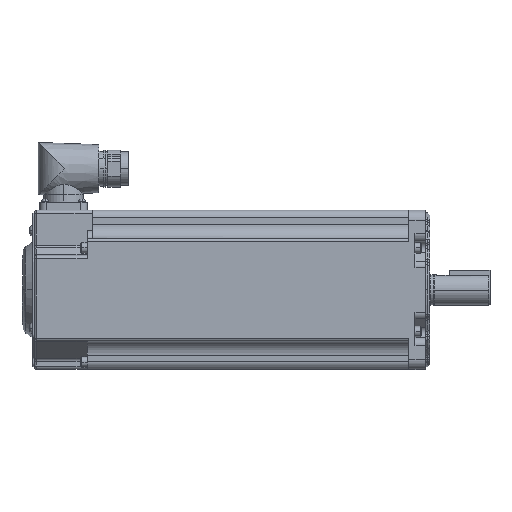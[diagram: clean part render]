
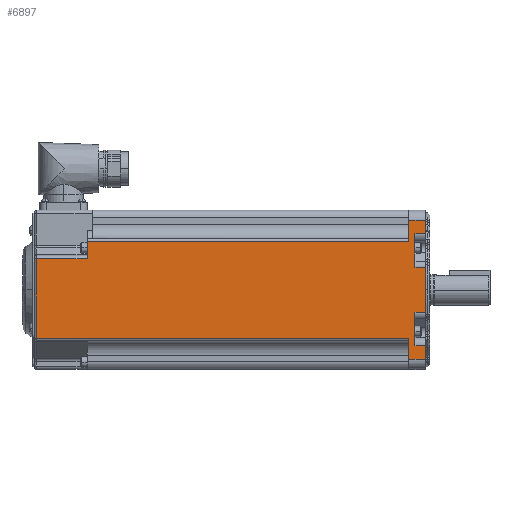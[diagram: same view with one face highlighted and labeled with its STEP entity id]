
A CAD part, top view. The second image highlights one B-rep face of the part: STEP entity #6897.
In plain terms, the highlighted planar face has unit normal (0, 0, 1) as drawn and (0, 0, -1) by its records, which use the part's own axes.
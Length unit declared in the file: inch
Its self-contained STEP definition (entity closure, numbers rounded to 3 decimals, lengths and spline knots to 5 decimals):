
#6897 = ADVANCED_FACE ( 'NONE', ( #29385 ), #29196, .F. ) ;
#7129 = EDGE_LOOP ( 'NONE', ( #10305, #10308, #10307, #10309, #10310, #17941, #17943, #17942, #17944, #17945, #17946, #17947, #17948, #17949, #17951, #17950, #17952, #17953 ) ) ;
#8104 = VERTEX_POINT ( 'NONE', #29499 ) ;
#8117 = VERTEX_POINT ( 'NONE', #29512 ) ;
#8153 = VERTEX_POINT ( 'NONE', #29548 ) ;
#8154 = VERTEX_POINT ( 'NONE', #29549 ) ;
#8166 = VERTEX_POINT ( 'NONE', #29561 ) ;
#8181 = VERTEX_POINT ( 'NONE', #29576 ) ;
#9345 = EDGE_CURVE ( 'NONE', #8154, #8153, #30149, .T. ) ;
#9444 = EDGE_CURVE ( 'NONE', #8117, #8104, #30278, .T. ) ;
#9479 = EDGE_CURVE ( 'NONE', #8166, #8181, #30341, .T. ) ;
#9527 = EDGE_CURVE ( 'NONE', #17619, #17621, #30416, .T. ) ;
#9529 = EDGE_CURVE ( 'NONE', #17619, #17620, #30419, .T. ) ;
#9531 = EDGE_CURVE ( 'NONE', #17621, #17622, #30518, .T. ) ;
#10305 = ORIENTED_EDGE ( 'NONE', *, *, #9529, .F. ) ;
#10307 = ORIENTED_EDGE ( 'NONE', *, *, #9531, .T. ) ;
#10308 = ORIENTED_EDGE ( 'NONE', *, *, #9527, .T. ) ;
#10309 = ORIENTED_EDGE ( 'NONE', *, *, #17439, .T. ) ;
#10310 = ORIENTED_EDGE ( 'NONE', *, *, #9345, .F. ) ;
#13731 = LINE ( 'NONE', #13733, #35204 ) ;
#13733 = CARTESIAN_POINT ( 'NONE',  ( -8.1, -1.1825, -1.935 ) ) ;
#13735 = DIRECTION ( 'NONE',  ( -1., 0., 0. ) ) ;
#13737 = LINE ( 'NONE', #13739, #35205 ) ;
#13739 = CARTESIAN_POINT ( 'NONE',  ( -8.1, -0.755, -1.935 ) ) ;
#13741 = DIRECTION ( 'NONE',  ( -1., 0., 0. ) ) ;
#13743 = LINE ( 'NONE', #13745, #35206 ) ;
#13745 = CARTESIAN_POINT ( 'NONE',  ( -9.46, 1.1825, -1.935 ) ) ;
#13747 = DIRECTION ( 'NONE',  ( 0., 1., 0. ) ) ;
#13749 = LINE ( 'NONE', #13751, #35207 ) ;
#13751 = CARTESIAN_POINT ( 'NONE',  ( -8.1, 1.1825, -1.935 ) ) ;
#13753 = DIRECTION ( 'NONE',  ( 1., 0., 0. ) ) ;
#13755 = LINE ( 'NONE', #13757, #35208 ) ;
#13757 = CARTESIAN_POINT ( 'NONE',  ( -0.4, -1.935, -1.935 ) ) ;
#13759 = DIRECTION ( 'NONE',  ( 0., 1., 0. ) ) ;
#13761 = LINE ( 'NONE', #13763, #35209 ) ;
#13763 = CARTESIAN_POINT ( 'NONE',  ( -8.1, 1.685, -1.935 ) ) ;
#13765 = DIRECTION ( 'NONE',  ( 1., 0., 0. ) ) ;
#13767 = LINE ( 'NONE', #13769, #35210 ) ;
#13769 = CARTESIAN_POINT ( 'NONE',  ( 0., -1.935, -1.935 ) ) ;
#13771 = DIRECTION ( 'NONE',  ( 0., 1., 0. ) ) ;
#13773 = LINE ( 'NONE', #13775, #35211 ) ;
#13775 = CARTESIAN_POINT ( 'NONE',  ( -8.1, 1.36314, -1.935 ) ) ;
#13777 = DIRECTION ( 'NONE',  ( -1., 0., 0. ) ) ;
#13779 = LINE ( 'NONE', #13781, #35212 ) ;
#13781 = CARTESIAN_POINT ( 'NONE',  ( -8.1, 0.54835, -1.935 ) ) ;
#13783 = DIRECTION ( 'NONE',  ( 1., 0., 0. ) ) ;
#13785 = LINE ( 'NONE', #13787, #35213 ) ;
#13787 = CARTESIAN_POINT ( 'NONE',  ( 0., -1.935, -1.935 ) ) ;
#13789 = DIRECTION ( 'NONE',  ( 0., 1., 0. ) ) ;
#13791 = LINE ( 'NONE', #13793, #35214 ) ;
#13793 = CARTESIAN_POINT ( 'NONE',  ( -8.1, -0.54835, -1.935 ) ) ;
#13795 = DIRECTION ( 'NONE',  ( -1., 0., 0. ) ) ;
#13797 = LINE ( 'NONE', #13799, #35215 ) ;
#13799 = CARTESIAN_POINT ( 'NONE',  ( -8.1, -1.36314, -1.935 ) ) ;
#13801 = DIRECTION ( 'NONE',  ( 1., 0., 0. ) ) ;
#14393 = CARTESIAN_POINT ( 'NONE',  ( 0., -1.685, -1.935 ) ) ;
#14394 = CARTESIAN_POINT ( 'NONE',  ( 0., -1.36314, -1.935 ) ) ;
#14395 = CARTESIAN_POINT ( 'NONE',  ( -0.4, -1.685, -1.935 ) ) ;
#14396 = CARTESIAN_POINT ( 'NONE',  ( -0.4, -1.1825, -1.935 ) ) ;
#14397 = CARTESIAN_POINT ( 'NONE',  ( -9.46, -0.755, -1.935 ) ) ;
#14398 = CARTESIAN_POINT ( 'NONE',  ( -9.46, 1.1825, -1.935 ) ) ;
#14399 = CARTESIAN_POINT ( 'NONE',  ( -0.4, 1.1825, -1.935 ) ) ;
#14400 = CARTESIAN_POINT ( 'NONE',  ( -0.4, 1.685, -1.935 ) ) ;
#14401 = CARTESIAN_POINT ( 'NONE',  ( 0., 1.685, -1.935 ) ) ;
#14402 = CARTESIAN_POINT ( 'NONE',  ( 0., 1.36314, -1.935 ) ) ;
#14403 = CARTESIAN_POINT ( 'NONE',  ( 0., 0.54835, -1.935 ) ) ;
#14404 = CARTESIAN_POINT ( 'NONE',  ( 0., -0.54835, -1.935 ) ) ;
#17439 = EDGE_CURVE ( 'NONE', #17622, #8153, #13731, .T. ) ;
#17440 = EDGE_CURVE ( 'NONE', #8154, #17623, #13737, .T. ) ;
#17441 = EDGE_CURVE ( 'NONE', #17623, #17624, #13743, .T. ) ;
#17442 = EDGE_CURVE ( 'NONE', #17624, #17625, #13749, .T. ) ;
#17443 = EDGE_CURVE ( 'NONE', #17625, #17626, #13755, .T. ) ;
#17444 = EDGE_CURVE ( 'NONE', #17626, #17627, #13761, .T. ) ;
#17445 = EDGE_CURVE ( 'NONE', #17628, #17627, #13767, .T. ) ;
#17446 = EDGE_CURVE ( 'NONE', #17628, #8181, #13773, .T. ) ;
#17447 = EDGE_CURVE ( 'NONE', #8166, #17629, #13779, .T. ) ;
#17448 = EDGE_CURVE ( 'NONE', #17630, #17629, #13785, .T. ) ;
#17449 = EDGE_CURVE ( 'NONE', #17630, #8104, #13791, .T. ) ;
#17450 = EDGE_CURVE ( 'NONE', #8117, #17620, #13797, .T. ) ;
#17619 = VERTEX_POINT ( 'NONE', #14393 ) ;
#17620 = VERTEX_POINT ( 'NONE', #14394 ) ;
#17621 = VERTEX_POINT ( 'NONE', #14395 ) ;
#17622 = VERTEX_POINT ( 'NONE', #14396 ) ;
#17623 = VERTEX_POINT ( 'NONE', #14397 ) ;
#17624 = VERTEX_POINT ( 'NONE', #14398 ) ;
#17625 = VERTEX_POINT ( 'NONE', #14399 ) ;
#17626 = VERTEX_POINT ( 'NONE', #14400 ) ;
#17627 = VERTEX_POINT ( 'NONE', #14401 ) ;
#17628 = VERTEX_POINT ( 'NONE', #14402 ) ;
#17629 = VERTEX_POINT ( 'NONE', #14403 ) ;
#17630 = VERTEX_POINT ( 'NONE', #14404 ) ;
#17941 = ORIENTED_EDGE ( 'NONE', *, *, #17440, .T. ) ;
#17942 = ORIENTED_EDGE ( 'NONE', *, *, #17442, .T. ) ;
#17943 = ORIENTED_EDGE ( 'NONE', *, *, #17441, .T. ) ;
#17944 = ORIENTED_EDGE ( 'NONE', *, *, #17443, .T. ) ;
#17945 = ORIENTED_EDGE ( 'NONE', *, *, #17444, .T. ) ;
#17946 = ORIENTED_EDGE ( 'NONE', *, *, #17445, .F. ) ;
#17947 = ORIENTED_EDGE ( 'NONE', *, *, #17446, .T. ) ;
#17948 = ORIENTED_EDGE ( 'NONE', *, *, #9479, .F. ) ;
#17949 = ORIENTED_EDGE ( 'NONE', *, *, #17447, .T. ) ;
#17950 = ORIENTED_EDGE ( 'NONE', *, *, #17449, .T. ) ;
#17951 = ORIENTED_EDGE ( 'NONE', *, *, #17448, .F. ) ;
#17952 = ORIENTED_EDGE ( 'NONE', *, *, #9444, .F. ) ;
#17953 = ORIENTED_EDGE ( 'NONE', *, *, #17450, .T. ) ;
#29196 = PLANE ( 'NONE',  #29388 ) ;
#29197 = CARTESIAN_POINT ( 'NONE',  ( -8.1, 1.245, -1.935 ) ) ;
#29198 = DIRECTION ( 'NONE',  ( 0., 0., 1. ) ) ;
#29199 = DIRECTION ( 'NONE',  ( 0., -1., 0. ) ) ;
#29385 = FACE_OUTER_BOUND ( 'NONE', #7129, .T. ) ;
#29388 = AXIS2_PLACEMENT_3D ( 'NONE', #29197, #29198, #29199 ) ;
#29499 = CARTESIAN_POINT ( 'NONE',  ( -0.25, -0.54835, -1.935 ) ) ;
#29512 = CARTESIAN_POINT ( 'NONE',  ( -0.25, -1.36314, -1.935 ) ) ;
#29548 = CARTESIAN_POINT ( 'NONE',  ( -8.225, -1.1825, -1.935 ) ) ;
#29549 = CARTESIAN_POINT ( 'NONE',  ( -8.225, -0.755, -1.935 ) ) ;
#29561 = CARTESIAN_POINT ( 'NONE',  ( -0.25, 0.54835, -1.935 ) ) ;
#29576 = CARTESIAN_POINT ( 'NONE',  ( -0.25, 1.36314, -1.935 ) ) ;
#30114 = VECTOR ( 'NONE', #30151, 39.37008 ) ;
#30149 = LINE ( 'NONE', #30150, #30114 ) ;
#30150 = CARTESIAN_POINT ( 'NONE',  ( -8.225, -1.935, -1.935 ) ) ;
#30151 = DIRECTION ( 'NONE',  ( 0., -1., 0. ) ) ;
#30278 = LINE ( 'NONE', #30279, #30449 ) ;
#30279 = CARTESIAN_POINT ( 'NONE',  ( -0.25, -0.6312, -1.935 ) ) ;
#30280 = DIRECTION ( 'NONE',  ( 0., 1., 0. ) ) ;
#30341 = LINE ( 'NONE', #30342, #30470 ) ;
#30342 = CARTESIAN_POINT ( 'NONE',  ( -0.25, 0.6312, -1.935 ) ) ;
#30343 = DIRECTION ( 'NONE',  ( 0., 1., 0. ) ) ;
#30416 = LINE ( 'NONE', #30417, #30494 ) ;
#30417 = CARTESIAN_POINT ( 'NONE',  ( -8.1, -1.685, -1.935 ) ) ;
#30418 = DIRECTION ( 'NONE',  ( -1., 0., 0. ) ) ;
#30419 = LINE ( 'NONE', #30420, #30495 ) ;
#30420 = CARTESIAN_POINT ( 'NONE',  ( 0., -1.935, -1.935 ) ) ;
#30449 = VECTOR ( 'NONE', #30280, 39.37008 ) ;
#30470 = VECTOR ( 'NONE', #30343, 39.37008 ) ;
#30494 = VECTOR ( 'NONE', #30418, 39.37008 ) ;
#30495 = VECTOR ( 'NONE', #30517, 39.37008 ) ;
#30497 = VECTOR ( 'NONE', #30520, 39.37008 ) ;
#30517 = DIRECTION ( 'NONE',  ( 0., 1., 0. ) ) ;
#30518 = LINE ( 'NONE', #30519, #30497 ) ;
#30519 = CARTESIAN_POINT ( 'NONE',  ( -0.4, -1.935, -1.935 ) ) ;
#30520 = DIRECTION ( 'NONE',  ( 0., 1., 0. ) ) ;
#35204 = VECTOR ( 'NONE', #13735, 39.37008 ) ;
#35205 = VECTOR ( 'NONE', #13741, 39.37008 ) ;
#35206 = VECTOR ( 'NONE', #13747, 39.37008 ) ;
#35207 = VECTOR ( 'NONE', #13753, 39.37008 ) ;
#35208 = VECTOR ( 'NONE', #13759, 39.37008 ) ;
#35209 = VECTOR ( 'NONE', #13765, 39.37008 ) ;
#35210 = VECTOR ( 'NONE', #13771, 39.37008 ) ;
#35211 = VECTOR ( 'NONE', #13777, 39.37008 ) ;
#35212 = VECTOR ( 'NONE', #13783, 39.37008 ) ;
#35213 = VECTOR ( 'NONE', #13789, 39.37008 ) ;
#35214 = VECTOR ( 'NONE', #13795, 39.37008 ) ;
#35215 = VECTOR ( 'NONE', #13801, 39.37008 ) ;
